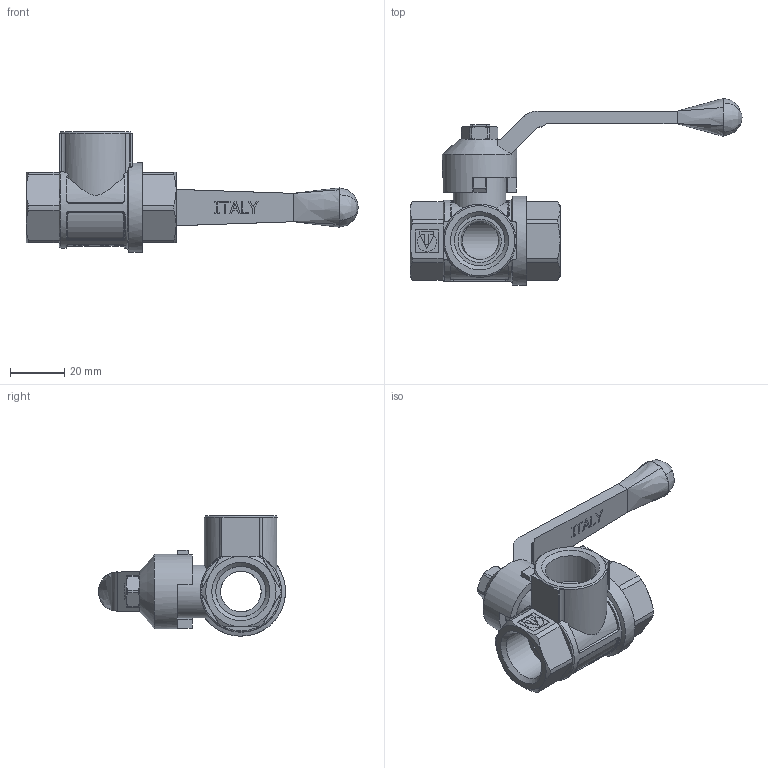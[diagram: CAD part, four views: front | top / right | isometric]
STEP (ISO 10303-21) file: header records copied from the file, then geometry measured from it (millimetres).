
FILE_DESCRIPTION(/* description */ (''),/* implementation_level */ '2;1');
FILE_NAME(/* name */ 'E:\Артём\00000\Работа удаленка\VT.361.N.04.stp',/* time_stamp */ '2020-04-28T12:05:09+03:00',/* author */ ('BeN_GaN'),/* organization */ (''),/* preprocessor_version */ 'ST-DEVELOPER v18',/* originating_system */ 'Autodesk Inventor 2020',/* authorisation */ '');
FILE_SCHEMA (('AUTOMOTIVE_DESIGN { 1 0 10303 214 3 1 1 }'));
Length unit declared in the file: millimetre
Products named in the file (1): VT.360.N.04
Bounding box: 122.75 x 69.14 x 44.5 mm (x, y, z)
Volume: 41975.4 mm3; surface area: 23512.9 mm2
Topology: 1 solids, 6 shells, 576 faces, 1552 edges, 1014 vertices
Faces by surface type: plane 292, cylinder 143, bspline 61, cone 52, torus 23, sphere 5
Full cylindrical faces by diameter (mm): 9.5 x2, 10 x1, 12 x1, 12.5 x1, 14 x3, 14.5 x1, 15 x4, 15.4 x4, 18.6 x3, 19.5 x1, 21.5 x1, 22 x4, 25.5 x1, 27.5 x1, 33 x1
Entity records: 20614 total; most frequent: CARTESIAN_POINT 6397, ORIENTED_EDGE 3098, DIRECTION 2841, EDGE_CURVE 1549, AXIS2_PLACEMENT_3D 1073, VERTEX_POINT 1014, LINE 695, VECTOR 695
